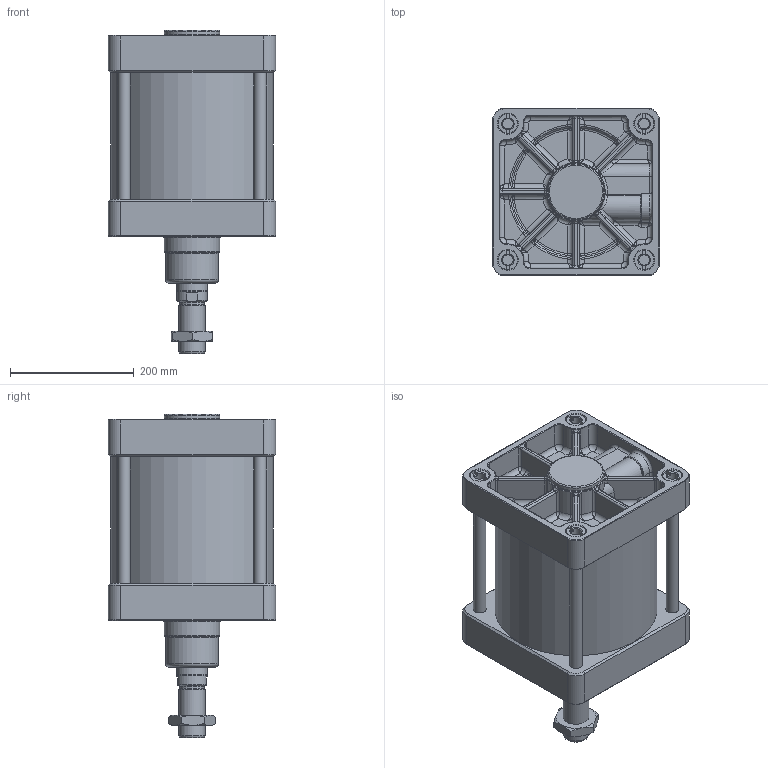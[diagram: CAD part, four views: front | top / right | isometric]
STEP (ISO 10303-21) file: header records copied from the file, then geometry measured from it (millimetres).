
FILE_DESCRIPTION(/* description */ ('Unknown'),/* implementation_level */ '2;1');
FILE_NAME(/* name */ 'UDM 250_125',/* time_stamp */ '2024-08-15T14:01:58+02:00',/* author */ ('Unknown'),/* organization */ ('Unknown'),/* preprocessor_version */ 'ST-DEVELOPER v16.7',/* originating_system */ 'Solid Edge',/* authorisation */ 'Unknown');
FILE_SCHEMA (('AUTOMOTIVE_DESIGN {1 0 10303 214 3 1 1}'));
Length unit declared in the file: millimetre
Products named in the file (7): UDM 250_125; Kit_1; Profilrohr 250_125; Zugstange 250_125; Kit_2; Mutter; Kolbenstange 250_125
Assembly tree (9 placements, depth 2):
  UDM 250_125
    Kit_1
    Profilrohr 250_125
    Zugstange 250_125  x4
    Kit_2
    Mutter
    Kolbenstange 250_125
Bounding box: 270 x 270 x 522 mm (x, y, z)
Volume: 10872746.9 mm3; surface area: 1321163.2 mm2
Topology: 9 solids, 13 shells, 1177 faces, 2799 edges, 1549 vertices
Faces by surface type: cylinder 364, plane 267, torus 191, bspline 186, cone 139, sphere 30
Full cylindrical faces by diameter (mm): 8 x2, 10 x2, 11 x2, 11.2 x2, 16 x2, 17.28 x8, 17.294 x8, 20 x4, 20.5 x8, 24 x2, 25 x2, 30.28 x2, 30.291 x2, 32 x8, 38.8 x1, 39.835 x1, 40 x2, 42 x1, 49 x1, 50 x3, 50.8 x1, 50.962 x1, 51 x2, 55 x1, 58 x1, 60 x2, 85 x1, 90 x2, 94 x1, 250 x2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
Entity records: 55891 total; most frequent: CARTESIAN_POINT 23983, ORIENTED_EDGE 5146, DIRECTION 4459, EDGE_CURVE 2573, AXIS2_PLACEMENT_3D 1834, VERTEX_POINT 1511, EDGE_LOOP 1268, FACE_BOUND 1268
